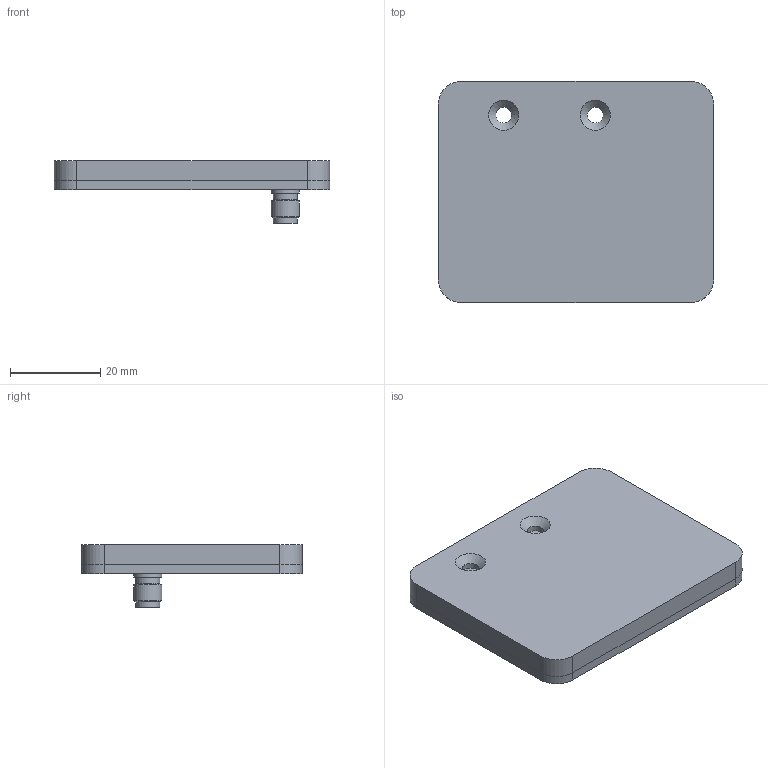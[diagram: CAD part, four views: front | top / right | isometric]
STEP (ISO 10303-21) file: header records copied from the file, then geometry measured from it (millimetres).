
FILE_DESCRIPTION (( 'STEP AP214' ), '1' );
FILE_NAME ('8118_012 (8118_071 - WB - 1 to 10GHz).STEP', '2024-04-12T13:16:29', ( '' ), ( '' ), 'SwSTEP 2.0', 'SolidWorks 2015', '' );
FILE_SCHEMA (( 'AUTOMOTIVE_DESIGN' ));
Length unit declared in the file: millimetre
Products named in the file (11): 8118_012 (8118_071 - WB - 1 to 10GHz); 8118_071; j01151a0701; 8118_104; 8118_106
Assembly tree (7 placements, depth 3):
  8118_012 (8118_071 - WB - 1 to 10GHz)
    8118_071
      j01151a0701
  8118_104
  8118_106
  8118_012 (8118_071 - WB - 1 to 10GHz)
    8118_071
      j01151a0701
    8118_106
      8118_106
    8118_104
Bounding box: 61 x 49 x 13.95 mm (x, y, z)
Volume: 15337.5 mm3; surface area: 14987.9 mm2
Topology: 3 solids, 3 shells, 1357 faces, 3820 edges, 2551 vertices
Faces by surface type: plane 675, cylinder 586, bspline 86, cone 10
Full cylindrical faces by diameter (mm): 0.8 x1, 0.85 x1, 1.3 x1, 3.05 x2, 3.5 x4, 4.5 x1, 5.3 x1, 5.34 x1, 6.25 x2
Entity records: 49549 total; most frequent: CARTESIAN_POINT 13120, ORIENTED_EDGE 7586, DIRECTION 7381, EDGE_CURVE 3793, VERTEX_POINT 2538, AXIS2_PLACEMENT_3D 2467, LINE 2447, VECTOR 2447
